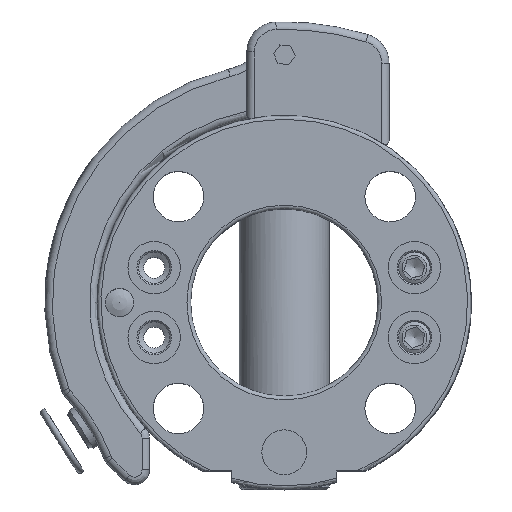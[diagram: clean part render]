
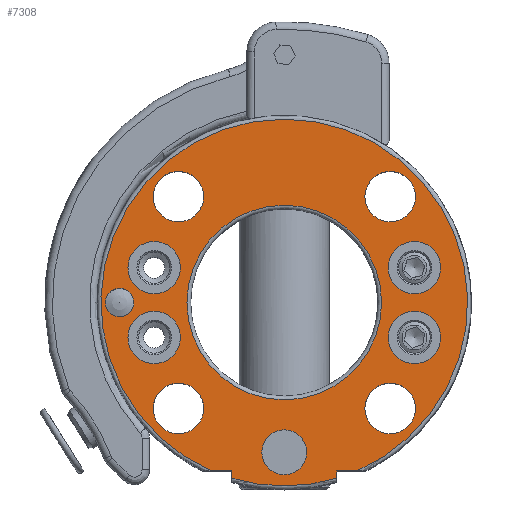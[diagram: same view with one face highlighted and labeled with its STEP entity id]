
A CAD part, top view. The second image highlights one B-rep face of the part: STEP entity #7308.
In plain terms, the highlighted planar face has unit normal (0, 0, 1).
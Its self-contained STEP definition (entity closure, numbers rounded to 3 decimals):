
#479=FACE_BOUND('',#1324,.T.);
#480=FACE_BOUND('',#1325,.T.);
#481=FACE_BOUND('',#1326,.T.);
#482=FACE_BOUND('',#1327,.T.);
#483=FACE_BOUND('',#1328,.T.);
#484=FACE_BOUND('',#1329,.T.);
#485=FACE_BOUND('',#1330,.T.);
#486=FACE_BOUND('',#1331,.T.);
#487=FACE_BOUND('',#1332,.T.);
#488=FACE_BOUND('',#1333,.T.);
#489=FACE_BOUND('',#1334,.T.);
#591=PLANE('',#7976);
#883=FACE_OUTER_BOUND('',#1323,.T.);
#1323=EDGE_LOOP('',(#5526,#5527,#5528,#5529,#5530,#5531));
#1324=EDGE_LOOP('',(#5532));
#1325=EDGE_LOOP('',(#5533));
#1326=EDGE_LOOP('',(#5534));
#1327=EDGE_LOOP('',(#5535));
#1328=EDGE_LOOP('',(#5536));
#1329=EDGE_LOOP('',(#5537));
#1330=EDGE_LOOP('',(#5538));
#1331=EDGE_LOOP('',(#5539));
#1332=EDGE_LOOP('',(#5540));
#1333=EDGE_LOOP('',(#5541));
#1334=EDGE_LOOP('',(#5542));
#1770=LINE('',#12700,#2208);
#1771=LINE('',#12702,#2209);
#1772=LINE('',#12706,#2210);
#1773=LINE('',#12707,#2211);
#2208=VECTOR('',#9370,10.);
#2209=VECTOR('',#9371,10.);
#2210=VECTOR('',#9374,10.);
#2211=VECTOR('',#9375,10.);
#2676=CIRCLE('',#7973,13.);
#2679=CIRCLE('',#7977,24.5);
#2680=CIRCLE('',#7978,24.5);
#2681=CIRCLE('',#7979,3.5);
#2682=CIRCLE('',#7980,3.5);
#2683=CIRCLE('',#7981,3.5);
#2684=CIRCLE('',#7982,3.5);
#2685=CIRCLE('',#7983,1.9);
#2686=CIRCLE('',#7984,3.);
#2687=CIRCLE('',#7985,3.375);
#2688=CIRCLE('',#7986,3.375);
#2689=CIRCLE('',#7987,3.375);
#2690=CIRCLE('',#7988,3.375);
#3181=VERTEX_POINT('',#12690);
#3183=VERTEX_POINT('',#12696);
#3184=VERTEX_POINT('',#12697);
#3185=VERTEX_POINT('',#12699);
#3186=VERTEX_POINT('',#12701);
#3187=VERTEX_POINT('',#12703);
#3188=VERTEX_POINT('',#12705);
#3189=VERTEX_POINT('',#12708);
#3190=VERTEX_POINT('',#12710);
#3191=VERTEX_POINT('',#12712);
#3192=VERTEX_POINT('',#12714);
#3193=VERTEX_POINT('',#12716);
#3194=VERTEX_POINT('',#12718);
#3195=VERTEX_POINT('',#12720);
#3196=VERTEX_POINT('',#12722);
#3197=VERTEX_POINT('',#12724);
#3198=VERTEX_POINT('',#12726);
#4034=EDGE_CURVE('',#3181,#3181,#2676,.T.);
#4037=EDGE_CURVE('',#3183,#3184,#2679,.T.);
#4038=EDGE_CURVE('',#3183,#3185,#1770,.T.);
#4039=EDGE_CURVE('',#3185,#3186,#1771,.T.);
#4040=EDGE_CURVE('',#3187,#3186,#2680,.T.);
#4041=EDGE_CURVE('',#3187,#3188,#1772,.T.);
#4042=EDGE_CURVE('',#3188,#3184,#1773,.T.);
#4043=EDGE_CURVE('',#3189,#3189,#2681,.T.);
#4044=EDGE_CURVE('',#3190,#3190,#2682,.T.);
#4045=EDGE_CURVE('',#3191,#3191,#2683,.T.);
#4046=EDGE_CURVE('',#3192,#3192,#2684,.T.);
#4047=EDGE_CURVE('',#3193,#3193,#2685,.T.);
#4048=EDGE_CURVE('',#3194,#3194,#2686,.T.);
#4049=EDGE_CURVE('',#3195,#3195,#2687,.T.);
#4050=EDGE_CURVE('',#3196,#3196,#2688,.T.);
#4051=EDGE_CURVE('',#3197,#3197,#2689,.T.);
#4052=EDGE_CURVE('',#3198,#3198,#2690,.T.);
#5526=ORIENTED_EDGE('',*,*,#4037,.F.);
#5527=ORIENTED_EDGE('',*,*,#4038,.T.);
#5528=ORIENTED_EDGE('',*,*,#4039,.T.);
#5529=ORIENTED_EDGE('',*,*,#4040,.F.);
#5530=ORIENTED_EDGE('',*,*,#4041,.T.);
#5531=ORIENTED_EDGE('',*,*,#4042,.T.);
#5532=ORIENTED_EDGE('',*,*,#4043,.T.);
#5533=ORIENTED_EDGE('',*,*,#4044,.T.);
#5534=ORIENTED_EDGE('',*,*,#4045,.T.);
#5535=ORIENTED_EDGE('',*,*,#4046,.T.);
#5536=ORIENTED_EDGE('',*,*,#4047,.T.);
#5537=ORIENTED_EDGE('',*,*,#4048,.T.);
#5538=ORIENTED_EDGE('',*,*,#4049,.T.);
#5539=ORIENTED_EDGE('',*,*,#4050,.T.);
#5540=ORIENTED_EDGE('',*,*,#4051,.T.);
#5541=ORIENTED_EDGE('',*,*,#4052,.T.);
#5542=ORIENTED_EDGE('',*,*,#4034,.F.);
#7308=ADVANCED_FACE('',(#883,#479,#480,#481,#482,#483,#484,#485,#486,#487,
#488,#489),#591,.T.);
#7973=AXIS2_PLACEMENT_3D('',#12691,#9360,#9361);
#7976=AXIS2_PLACEMENT_3D('',#12695,#9366,#9367);
#7977=AXIS2_PLACEMENT_3D('',#12698,#9368,#9369);
#7978=AXIS2_PLACEMENT_3D('',#12704,#9372,#9373);
#7979=AXIS2_PLACEMENT_3D('',#12709,#9376,#9377);
#7980=AXIS2_PLACEMENT_3D('',#12711,#9378,#9379);
#7981=AXIS2_PLACEMENT_3D('',#12713,#9380,#9381);
#7982=AXIS2_PLACEMENT_3D('',#12715,#9382,#9383);
#7983=AXIS2_PLACEMENT_3D('',#12717,#9384,#9385);
#7984=AXIS2_PLACEMENT_3D('',#12719,#9386,#9387);
#7985=AXIS2_PLACEMENT_3D('',#12721,#9388,#9389);
#7986=AXIS2_PLACEMENT_3D('',#12723,#9390,#9391);
#7987=AXIS2_PLACEMENT_3D('',#12725,#9392,#9393);
#7988=AXIS2_PLACEMENT_3D('',#12727,#9394,#9395);
#9360=DIRECTION('center_axis',(0.,0.,1.));
#9361=DIRECTION('ref_axis',(-1.,0.,0.));
#9366=DIRECTION('center_axis',(0.,0.,1.));
#9367=DIRECTION('ref_axis',(1.,0.,0.));
#9368=DIRECTION('center_axis',(0.,0.,-1.));
#9369=DIRECTION('ref_axis',(0.,-1.,0.));
#9370=DIRECTION('',(0.,1.,0.));
#9371=DIRECTION('',(1.,0.,0.));
#9372=DIRECTION('center_axis',(0.,0.,-1.));
#9373=DIRECTION('ref_axis',(0.,1.,0.));
#9374=DIRECTION('',(1.,0.,0.));
#9375=DIRECTION('',(0.,-1.,0.));
#9376=DIRECTION('center_axis',(0.,0.,-1.));
#9377=DIRECTION('ref_axis',(1.,0.,0.));
#9378=DIRECTION('center_axis',(0.,0.,-1.));
#9379=DIRECTION('ref_axis',(1.,0.,0.));
#9380=DIRECTION('center_axis',(0.,0.,-1.));
#9381=DIRECTION('ref_axis',(1.,0.,0.));
#9382=DIRECTION('center_axis',(0.,0.,-1.));
#9383=DIRECTION('ref_axis',(1.,0.,0.));
#9384=DIRECTION('center_axis',(0.,0.,-1.));
#9385=DIRECTION('ref_axis',(1.,0.,0.));
#9386=DIRECTION('center_axis',(0.,0.,-1.));
#9387=DIRECTION('ref_axis',(1.,0.,0.));
#9388=DIRECTION('center_axis',(0.,0.,-1.));
#9389=DIRECTION('ref_axis',(-1.,0.,0.));
#9390=DIRECTION('center_axis',(0.,0.,-1.));
#9391=DIRECTION('ref_axis',(-1.,0.,0.));
#9392=DIRECTION('center_axis',(0.,0.,-1.));
#9393=DIRECTION('ref_axis',(-1.,0.,0.));
#9394=DIRECTION('center_axis',(0.,0.,-1.));
#9395=DIRECTION('ref_axis',(-1.,0.,0.));
#12690=CARTESIAN_POINT('',(13.,0.,24.));
#12691=CARTESIAN_POINT('Origin',(0.,0.,24.));
#12695=CARTESIAN_POINT('Origin',(0.,0.,24.));
#12696=CARTESIAN_POINT('',(7.,-23.479,24.));
#12697=CARTESIAN_POINT('',(-7.,-23.479,24.));
#12698=CARTESIAN_POINT('Origin',(0.,0.,24.));
#12699=CARTESIAN_POINT('',(7.,-22.5,24.));
#12700=CARTESIAN_POINT('',(7.,-13.25,24.));
#12701=CARTESIAN_POINT('',(9.695,-22.5,24.));
#12702=CARTESIAN_POINT('',(3.5,-22.5,24.));
#12703=CARTESIAN_POINT('',(-9.695,-22.5,24.));
#12704=CARTESIAN_POINT('Origin',(0.,0.,24.));
#12705=CARTESIAN_POINT('',(-7.,-22.5,24.));
#12706=CARTESIAN_POINT('',(-6.5,-22.5,24.));
#12707=CARTESIAN_POINT('',(-7.,-11.25,24.));
#12708=CARTESIAN_POINT('',(-20.887,-4.659,24.));
#12709=CARTESIAN_POINT('Origin',(-17.387,-4.659,24.));
#12710=CARTESIAN_POINT('',(13.887,4.659,24.));
#12711=CARTESIAN_POINT('Origin',(17.387,4.659,24.));
#12712=CARTESIAN_POINT('',(13.887,-4.659,24.));
#12713=CARTESIAN_POINT('Origin',(17.387,-4.659,24.));
#12714=CARTESIAN_POINT('',(-20.887,4.659,24.));
#12715=CARTESIAN_POINT('Origin',(-17.387,4.659,24.));
#12716=CARTESIAN_POINT('',(-23.9,0.,24.));
#12717=CARTESIAN_POINT('Origin',(-22.,0.,24.));
#12718=CARTESIAN_POINT('',(-3.,-20.,24.));
#12719=CARTESIAN_POINT('Origin',(0.,-20.,24.));
#12720=CARTESIAN_POINT('',(-10.767,-14.142,24.));
#12721=CARTESIAN_POINT('Origin',(-14.142,-14.142,24.));
#12722=CARTESIAN_POINT('',(17.517,14.142,24.));
#12723=CARTESIAN_POINT('Origin',(14.142,14.142,24.));
#12724=CARTESIAN_POINT('',(-10.767,14.142,24.));
#12725=CARTESIAN_POINT('Origin',(-14.142,14.142,24.));
#12726=CARTESIAN_POINT('',(17.517,-14.142,24.));
#12727=CARTESIAN_POINT('Origin',(14.142,-14.142,24.));
